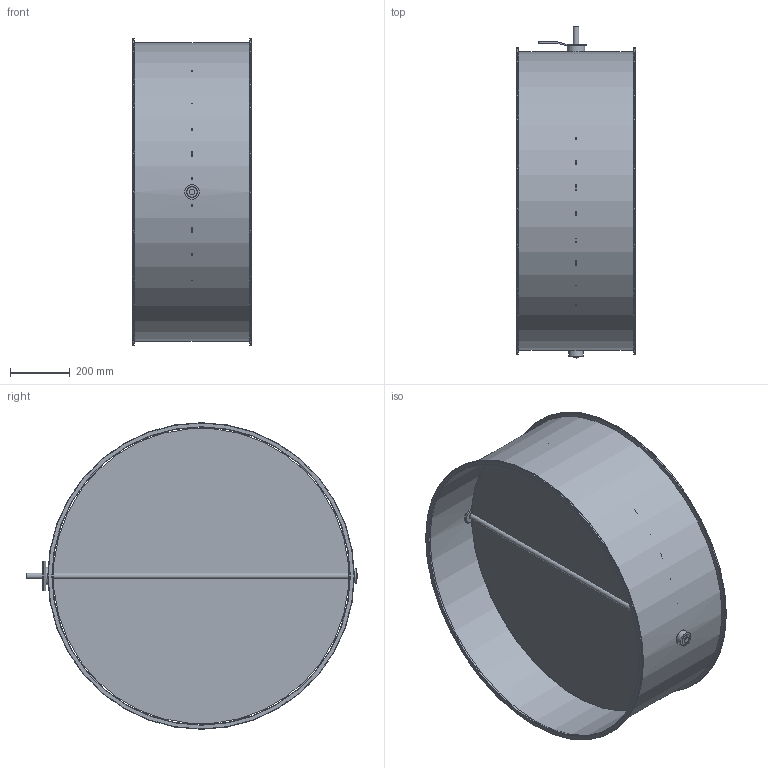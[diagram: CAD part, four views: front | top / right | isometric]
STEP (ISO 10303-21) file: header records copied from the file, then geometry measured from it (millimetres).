
FILE_DESCRIPTION(/* description */ (''),/* implementation_level */ '2;1');
FILE_NAME(/* name */ 'EA117-80B__1000_L400_Belimo_Typ_SM.stp',/* time_stamp */ '2017-12-06T17:38:05+01:00',/* author */ (''),/* organization */ (''),/* preprocessor_version */ 'ST-DEVELOPER v11',/* originating_system */ 'SIEMENS UGS NX 6.0',/* authorisation */ '');
FILE_SCHEMA (('CONFIG_CONTROL_DESIGN'));
Length unit declared in the file: millimetre
Products named in the file (1): gars18E2j2tw
Bounding box: 400 x 1115 x 1030 mm (x, y, z)
Volume: 3567590.8 mm3; surface area: 4364023.3 mm2
Topology: 8 solids, 8 shells, 79 faces, 167 edges, 106 vertices
Faces by surface type: plane 36, cylinder 35, torus 6, cone 2
Full cylindrical faces by diameter (mm): 8.1 x7, 20 x3, 35 x3, 35.85 x2, 36 x2, 49 x1, 50 x2, 59 x1, 1000 x1, 1002.4 x1, 1030 x2
Entity records: 2094 total; most frequent: CARTESIAN_POINT 400, DIRECTION 352, ORIENTED_EDGE 248, AXIS2_PLACEMENT_3D 152, EDGE_LOOP 144, EDGE_CURVE 124, FACE_BOUND 114, VERTEX_POINT 96
